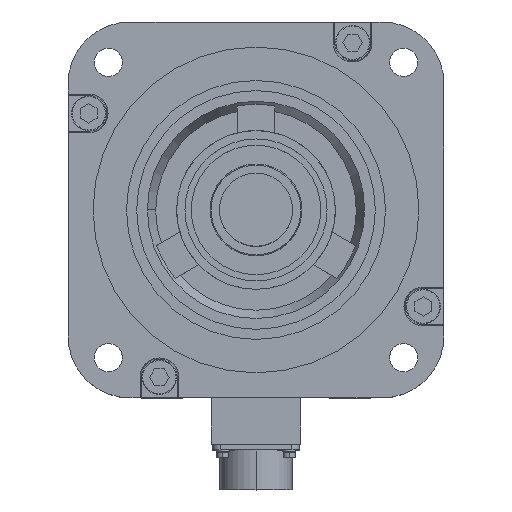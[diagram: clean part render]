
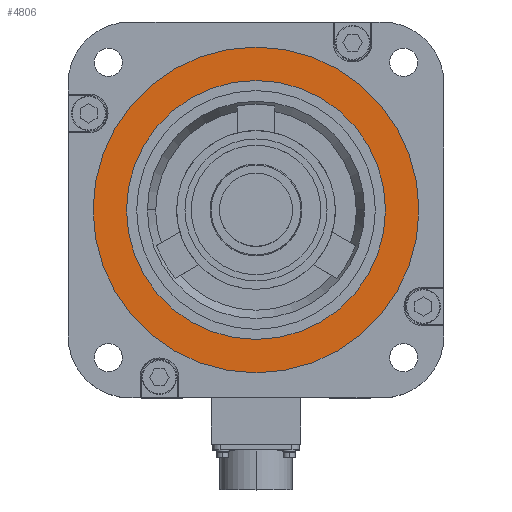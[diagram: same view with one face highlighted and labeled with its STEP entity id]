
A CAD part, top view. The second image highlights one B-rep face of the part: STEP entity #4806.
In plain terms, the highlighted planar face has unit normal (0, 0, 1).
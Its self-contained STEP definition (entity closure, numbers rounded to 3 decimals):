
#2017 = DIRECTION ( 'NONE',  ( 1., 0., 0. ) ) ;
#2018 = DIRECTION ( 'NONE',  ( 0., 0., 1. ) ) ;
#2019 = CARTESIAN_POINT ( 'NONE',  ( 0., 0., -0.5 ) ) ;
#2020 = AXIS2_PLACEMENT_3D ( 'NONE', #2019, #2018, #2017 ) ;
#2021 = CIRCLE ( 'NONE', #2020, 62. ) ;
#2453 = VERTEX_POINT ( 'NONE', #9918 ) ;
#3970 = EDGE_CURVE ( 'NONE', #2453, #3971, #12659, .T. ) ;
#3971 = VERTEX_POINT ( 'NONE', #12653 ) ;
#4662 = ORIENTED_EDGE ( 'NONE', *, *, #6815, .T. ) ;
#4686 = EDGE_CURVE ( 'NONE', #6813, #6803, #13909, .T. ) ;
#4742 = ORIENTED_EDGE ( 'NONE', *, *, #4686, .T. ) ;
#4806 = ADVANCED_FACE ( 'NONE', ( #14131, #14130 ), #14129, .T. ) ;
#4810 = EDGE_LOOP ( 'NONE', ( #4742, #4662 ) ) ;
#6803 = VERTEX_POINT ( 'NONE', #17563 ) ;
#6813 = VERTEX_POINT ( 'NONE', #17552 ) ;
#6815 = EDGE_CURVE ( 'NONE', #6803, #6813, #17546, .T. ) ;
#7992 = ORIENTED_EDGE ( 'NONE', *, *, #3970, .F. ) ;
#9918 = CARTESIAN_POINT ( 'NONE',  ( 62., 0., -0.5 ) ) ;
#12653 = CARTESIAN_POINT ( 'NONE',  ( -62., 0., -0.5 ) ) ;
#12654 = DIRECTION ( 'NONE',  ( 1., 0., 0. ) ) ;
#12655 = DIRECTION ( 'NONE',  ( 0., 0., 1. ) ) ;
#12656 = CARTESIAN_POINT ( 'NONE',  ( 0., 0., -0.5 ) ) ;
#12658 = AXIS2_PLACEMENT_3D ( 'NONE', #12656, #12655, #12654 ) ;
#12659 = CIRCLE ( 'NONE', #12658, 62. ) ;
#13905 = DIRECTION ( 'NONE',  ( 1., 0., 0. ) ) ;
#13906 = DIRECTION ( 'NONE',  ( 0., 0., 1. ) ) ;
#13907 = CARTESIAN_POINT ( 'NONE',  ( 0., 0., -0.5 ) ) ;
#13908 = AXIS2_PLACEMENT_3D ( 'NONE', #13907, #13906, #13905 ) ;
#13909 = CIRCLE ( 'NONE', #13908, 78. ) ;
#14124 = DIRECTION ( 'NONE',  ( 1., 0., 0. ) ) ;
#14125 = DIRECTION ( 'NONE',  ( 0., 0., 1. ) ) ;
#14126 = CARTESIAN_POINT ( 'NONE',  ( 0., 0., -0.5 ) ) ;
#14128 = AXIS2_PLACEMENT_3D ( 'NONE', #14126, #14125, #14124 ) ;
#14129 = PLANE ( 'NONE',  #14128 ) ;
#14130 = FACE_BOUND ( 'NONE', #20878, .T. ) ;
#14131 = FACE_OUTER_BOUND ( 'NONE', #4810, .T. ) ;
#17542 = DIRECTION ( 'NONE',  ( 1., 0., 0. ) ) ;
#17543 = DIRECTION ( 'NONE',  ( 0., 0., 1. ) ) ;
#17544 = CARTESIAN_POINT ( 'NONE',  ( 0., 0., -0.5 ) ) ;
#17545 = AXIS2_PLACEMENT_3D ( 'NONE', #17544, #17543, #17542 ) ;
#17546 = CIRCLE ( 'NONE', #17545, 78. ) ;
#17552 = CARTESIAN_POINT ( 'NONE',  ( 78., 0., -0.5 ) ) ;
#17563 = CARTESIAN_POINT ( 'NONE',  ( -78., 0., -0.5 ) ) ;
#20133 = EDGE_CURVE ( 'NONE', #3971, #2453, #2021, .T. ) ;
#20652 = ORIENTED_EDGE ( 'NONE', *, *, #20133, .F. ) ;
#20878 = EDGE_LOOP ( 'NONE', ( #20652, #7992 ) ) ;
